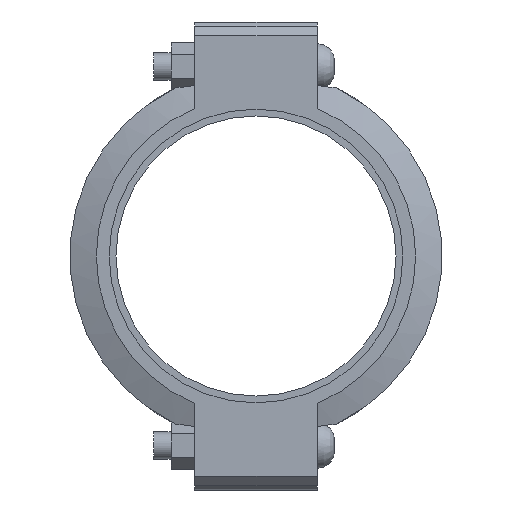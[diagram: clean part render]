
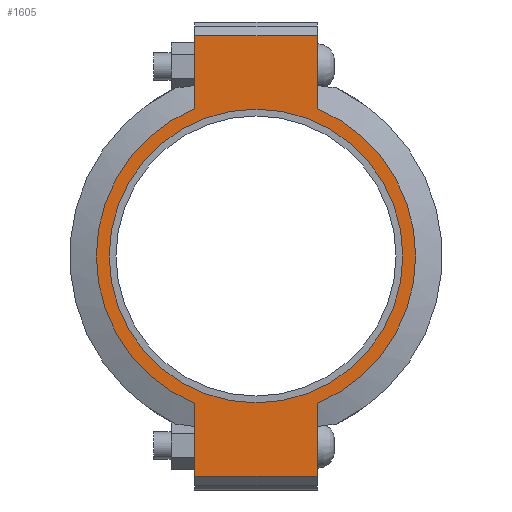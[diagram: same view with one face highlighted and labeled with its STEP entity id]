
A CAD part, left-side view. The second image highlights one B-rep face of the part: STEP entity #1605.
In plain terms, the highlighted planar face has unit normal (-1, 0, 0) as drawn and (0, 0, 1) by its records, which use the part's own axes.
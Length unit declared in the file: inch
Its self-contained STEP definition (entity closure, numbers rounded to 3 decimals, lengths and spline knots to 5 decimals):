
#176=LINE('',#2782,#265);
#187=LINE('',#2833,#276);
#193=LINE('',#2859,#282);
#195=LINE('',#2862,#284);
#196=LINE('',#2867,#285);
#197=LINE('',#2868,#286);
#265=VECTOR('',#2270,0.3937);
#276=VECTOR('',#2301,0.3937);
#282=VECTOR('',#2319,0.3937);
#284=VECTOR('',#2323,0.3937);
#285=VECTOR('',#2328,0.3937);
#286=VECTOR('',#2329,0.3937);
#348=FACE_BOUND('',#525,.T.);
#416=FACE_OUTER_BOUND('',#524,.T.);
#524=EDGE_LOOP('',(#1300,#1301,#1302,#1303,#1304,#1305,#1306,#1307));
#525=EDGE_LOOP('',(#1308));
#607=CIRCLE('',#1842,5.375);
#631=CIRCLE('',#1894,5.845);
#632=CIRCLE('',#1895,5.845);
#703=VERTEX_POINT('',#2608);
#744=VERTEX_POINT('',#2779);
#745=VERTEX_POINT('',#2781);
#762=VERTEX_POINT('',#2828);
#763=VERTEX_POINT('',#2832);
#770=VERTEX_POINT('',#2854);
#771=VERTEX_POINT('',#2858);
#772=VERTEX_POINT('',#2864);
#773=VERTEX_POINT('',#2866);
#867=EDGE_CURVE('',#703,#703,#607,.T.);
#924=EDGE_CURVE('',#745,#744,#176,.T.);
#945=EDGE_CURVE('',#763,#762,#187,.T.);
#956=EDGE_CURVE('',#771,#770,#193,.T.);
#958=EDGE_CURVE('',#771,#744,#195,.T.);
#959=EDGE_CURVE('',#770,#772,#631,.T.);
#960=EDGE_CURVE('',#772,#773,#196,.T.);
#961=EDGE_CURVE('',#763,#773,#197,.T.);
#962=EDGE_CURVE('',#762,#745,#632,.T.);
#1300=ORIENTED_EDGE('',*,*,#958,.F.);
#1301=ORIENTED_EDGE('',*,*,#956,.T.);
#1302=ORIENTED_EDGE('',*,*,#959,.T.);
#1303=ORIENTED_EDGE('',*,*,#960,.T.);
#1304=ORIENTED_EDGE('',*,*,#961,.F.);
#1305=ORIENTED_EDGE('',*,*,#945,.T.);
#1306=ORIENTED_EDGE('',*,*,#962,.T.);
#1307=ORIENTED_EDGE('',*,*,#924,.T.);
#1308=ORIENTED_EDGE('',*,*,#867,.T.);
#1445=PLANE('',#1893);
#1605=ADVANCED_FACE('',(#416,#348),#1445,.T.);
#1842=AXIS2_PLACEMENT_3D('',#2610,#2160,#2161);
#1893=AXIS2_PLACEMENT_3D('',#2863,#2324,#2325);
#1894=AXIS2_PLACEMENT_3D('',#2865,#2326,#2327);
#1895=AXIS2_PLACEMENT_3D('',#2869,#2330,#2331);
#2160=DIRECTION('center_axis',(0.,0.,-1.));
#2161=DIRECTION('ref_axis',(1.,0.,0.));
#2270=DIRECTION('',(1.,0.,0.));
#2301=DIRECTION('',(1.,0.,0.));
#2319=DIRECTION('',(-1.,0.,0.));
#2323=DIRECTION('',(0.,-1.,0.));
#2324=DIRECTION('center_axis',(0.,0.,1.));
#2325=DIRECTION('ref_axis',(-1.,0.,0.));
#2326=DIRECTION('center_axis',(0.,0.,1.));
#2327=DIRECTION('ref_axis',(1.,0.,0.));
#2328=DIRECTION('',(-1.,0.,0.));
#2329=DIRECTION('',(0.,1.,0.));
#2330=DIRECTION('center_axis',(0.,0.,1.));
#2331=DIRECTION('ref_axis',(1.,0.,0.));
#2608=CARTESIAN_POINT('',(-5.375,0.,1.315));
#2610=CARTESIAN_POINT('Origin',(0.,0.,1.315));
#2779=CARTESIAN_POINT('',(8.065,-2.25,1.315));
#2781=CARTESIAN_POINT('',(5.39458,-2.25,1.315));
#2782=CARTESIAN_POINT('',(-8.565,-2.25,1.315));
#2828=CARTESIAN_POINT('',(-5.39458,-2.25,1.315));
#2832=CARTESIAN_POINT('',(-8.065,-2.25,1.315));
#2833=CARTESIAN_POINT('',(-8.565,-2.25,1.315));
#2854=CARTESIAN_POINT('',(5.39458,2.25,1.315));
#2858=CARTESIAN_POINT('',(8.065,2.25,1.315));
#2859=CARTESIAN_POINT('',(8.565,2.25,1.315));
#2862=CARTESIAN_POINT('',(8.065,-1.125,1.315));
#2863=CARTESIAN_POINT('Origin',(0.,0.,
1.315));
#2864=CARTESIAN_POINT('',(-5.39458,2.25,1.315));
#2865=CARTESIAN_POINT('Origin',(0.,0.,1.315));
#2866=CARTESIAN_POINT('',(-8.065,2.25,1.315));
#2867=CARTESIAN_POINT('',(8.565,2.25,1.315));
#2868=CARTESIAN_POINT('',(-8.065,1.125,1.315));
#2869=CARTESIAN_POINT('Origin',(0.,0.,1.315));
